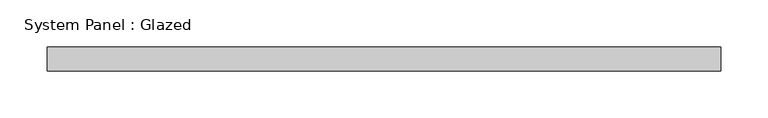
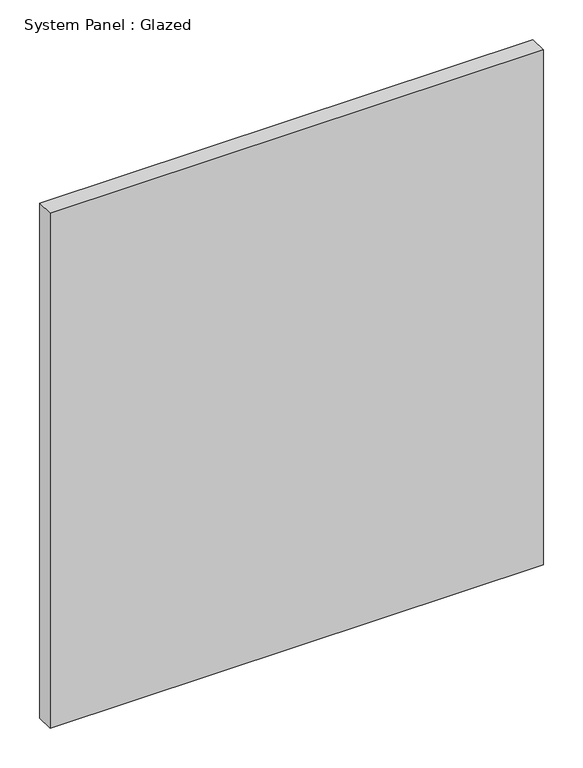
"""IFC4 building model written with IfcOpenShell, lengths in millimetres: plate geometry, System Panel : Glazed."""

from ifc_helpers import new_model, si_unit, origin, origin_with_axes, place, context, project, spatial, polyline, outline, extrude, source, transform, mapped, element, save


def system_panel_glazed_dc3c0d95(model_context):
    return source(origin(), model_context, "Body", "SweptSolid", [
        extrude(outline(polyline([(357.0564786, 19.05), (-357.0564786, 19.05), (-357.0564786, 44.45), (357.0564786, 44.45), (357.0564786, 19.05)])), origin_with_axes(), (0.0, 0.0, 1.0), 787.4),
    ])


if __name__ == "__main__":
    model = new_model("IFC4")
    model_context = context("Model", 3, world=origin())
    ifc_project = project(units=[si_unit("LENGTHUNIT", "METRE", prefix="MILLI")], contexts=[model_context])
    site = spatial("IfcSite", under=ifc_project)
    building = spatial("IfcBuilding", under=site)
    placement = place(None, origin())
    system_panel_glazed_shape = system_panel_glazed_dc3c0d95(model_context)
    element("IfcPlate", 1, ObjectType="System Panel : Glazed", at=placement, inside=building, context=model_context, shape_type="MappedRepresentation", body=[
        mapped(system_panel_glazed_shape, transform((0.0, 0.0, 0.0), x_axis=(1.0, 0.0, 0.0), y_axis=(0.0, 1.0, 0.0), z_axis=(0.0, 0.0, 1.0))),
    ])
    save(model, "model.ifc")
